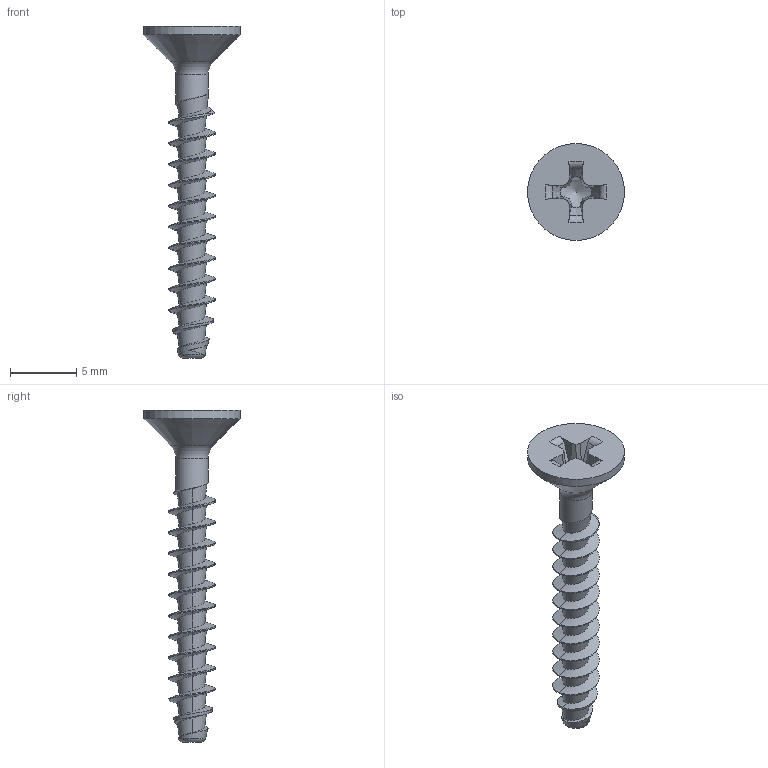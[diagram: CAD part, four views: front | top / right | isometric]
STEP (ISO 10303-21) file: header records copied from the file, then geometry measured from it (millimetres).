
FILE_DESCRIPTION(/* description */ (''),/* implementation_level */ '2;1');
FILE_NAME(/* name */ 'KN1033-STS-Neu-35x25-H2.step',/* time_stamp */ '2019-01-09T15:45:02+01:00',/* author */ (''),/* organization */ (''),/* preprocessor_version */ 'ST-DEVELOPER v16',/* originating_system */ 'SIEMENS PLM Software NX 10.0',/* authorisation */ '');
FILE_SCHEMA (('AUTOMOTIVE_DESIGN { 1 0 10303 214 3 1 1 1 }'));
Length unit declared in the file: millimetre
Products named in the file (1): KN1033-STS-Neu-35x25-H2
Bounding box: 7.3 x 7.3 x 25 mm (x, y, z)
Volume: 162 mm3; surface area: 392.5 mm2
Topology: 1 solids, 1 shells, 75 faces, 192 edges, 119 vertices
Faces by surface type: bspline 39, plane 18, cone 8, torus 6, cylinder 4
Full cylindrical faces by diameter (mm): 2.44 x1, 7.3 x1
Entity records: 4694 total; most frequent: CARTESIAN_POINT 3227, ORIENTED_EDGE 358, EDGE_CURVE 179, DIRECTION 178, VERTEX_POINT 114, B_SPLINE_CURVE_WITH_KNOTS 94, EDGE_LOOP 80, ADVANCED_FACE 74
